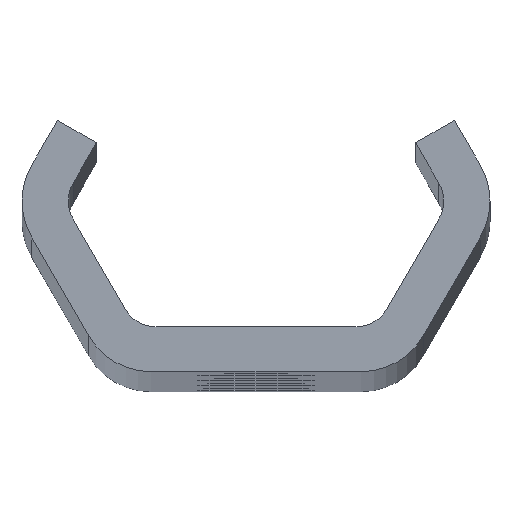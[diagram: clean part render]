
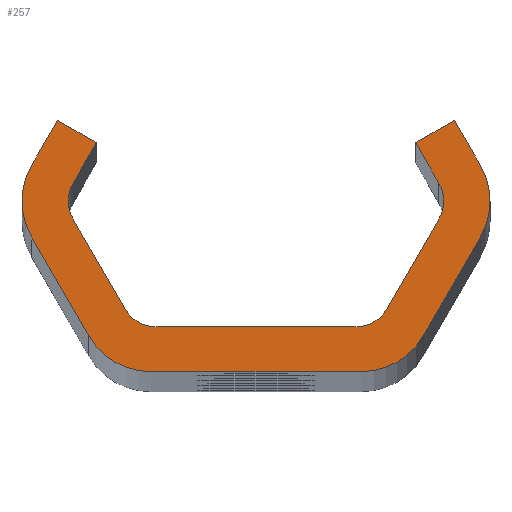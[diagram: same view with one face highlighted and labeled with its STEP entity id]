
A CAD part, top view. The second image highlights one B-rep face of the part: STEP entity #257.
In plain terms, the highlighted planar face has unit normal (0, 0, 1).
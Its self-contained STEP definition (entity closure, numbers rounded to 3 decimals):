
#257=ADVANCED_FACE('NONE',(#653),#654,.F.);
#653=FACE_OUTER_BOUND('',#1855,.T.);
#654=PLANE('',#1856);
#1855=EDGE_LOOP('',(#3693,#3694,#3695,#3696,#3697,#3698,#3699,#3700,#3701,#3702,#3703,#3704,#3705,#3706,#3707,#3708,#3709,#3710,#3711,#3712,#3713,#3714,#3715,#3716));
#1856=AXIS2_PLACEMENT_3D('',#3717,#3718,#3719);
#3693=ORIENTED_EDGE('',*,*,#4909,.T.);
#3694=ORIENTED_EDGE('',*,*,#4926,.T.);
#3695=ORIENTED_EDGE('',*,*,#4911,.T.);
#3696=ORIENTED_EDGE('',*,*,#4927,.T.);
#3697=ORIENTED_EDGE('',*,*,#4920,.F.);
#3698=ORIENTED_EDGE('',*,*,#4928,.T.);
#3699=ORIENTED_EDGE('',*,*,#4686,.T.);
#3700=ORIENTED_EDGE('',*,*,#4923,.F.);
#3701=ORIENTED_EDGE('',*,*,#4798,.F.);
#3702=ORIENTED_EDGE('',*,*,#4802,.F.);
#3703=ORIENTED_EDGE('',*,*,#4740,.T.);
#3704=ORIENTED_EDGE('',*,*,#4929,.T.);
#3705=ORIENTED_EDGE('',*,*,#4806,.F.);
#3706=ORIENTED_EDGE('',*,*,#4930,.T.);
#3707=ORIENTED_EDGE('',*,*,#4811,.F.);
#3708=ORIENTED_EDGE('',*,*,#4931,.T.);
#3709=ORIENTED_EDGE('',*,*,#4892,.T.);
#3710=ORIENTED_EDGE('',*,*,#4932,.T.);
#3711=ORIENTED_EDGE('',*,*,#4681,.T.);
#3712=ORIENTED_EDGE('',*,*,#4895,.T.);
#3713=ORIENTED_EDGE('',*,*,#4901,.T.);
#3714=ORIENTED_EDGE('',*,*,#4905,.T.);
#3715=ORIENTED_EDGE('',*,*,#4933,.T.);
#3716=ORIENTED_EDGE('',*,*,#4743,.T.);
#3717=CARTESIAN_POINT('',(0.0,0.0,640.0));
#3718=DIRECTION('',(0.0,0.0,-1.0));
#3719=DIRECTION('',(0.0,-1.0,0.0));
#4681=EDGE_CURVE('NONE',#5244,#5248,#5250,.T.);
#4686=EDGE_CURVE('NONE',#5253,#5257,#5259,.T.);
#4740=EDGE_CURVE('NONE',#5356,#5354,#5357,.T.);
#4743=EDGE_CURVE('NONE',#5360,#5361,#5362,.T.);
#4798=EDGE_CURVE('NONE',#5444,#5446,#5447,.T.);
#4802=EDGE_CURVE('NONE',#5356,#5444,#5451,.T.);
#4806=EDGE_CURVE('NONE',#5456,#5458,#5459,.T.);
#4811=EDGE_CURVE('NONE',#5465,#5467,#5468,.T.);
#4892=EDGE_CURVE('NONE',#5622,#5620,#5623,.T.);
#4895=EDGE_CURVE('NONE',#5248,#5626,#5627,.T.);
#4901=EDGE_CURVE('NONE',#5626,#5634,#5636,.T.);
#4905=EDGE_CURVE('NONE',#5634,#5640,#5642,.T.);
#4909=EDGE_CURVE('NONE',#5361,#5646,#5648,.T.);
#4911=EDGE_CURVE('NONE',#5650,#5651,#5652,.T.);
#4920=EDGE_CURVE('NONE',#5664,#5666,#5667,.T.);
#4923=EDGE_CURVE('NONE',#5446,#5257,#5670,.T.);
#4926=EDGE_CURVE('NONE',#5646,#5650,#5673,.T.);
#4927=EDGE_CURVE('NONE',#5651,#5666,#5674,.T.);
#4928=EDGE_CURVE('NONE',#5664,#5253,#5675,.T.);
#4929=EDGE_CURVE('NONE',#5354,#5458,#5676,.T.);
#4930=EDGE_CURVE('NONE',#5456,#5467,#5677,.T.);
#4931=EDGE_CURVE('NONE',#5465,#5622,#5678,.T.);
#4932=EDGE_CURVE('NONE',#5620,#5244,#5679,.T.);
#4933=EDGE_CURVE('NONE',#5640,#5360,#5680,.T.);
#5244=VERTEX_POINT('',#6081);
#5248=VERTEX_POINT('NONE',#6086);
#5250=CIRCLE('',#6089,2.0);
#5253=VERTEX_POINT('',#6092);
#5257=VERTEX_POINT('NONE',#6097);
#5259=CIRCLE('',#6100,4.0);
#5354=VERTEX_POINT('NONE',#6899);
#5356=VERTEX_POINT('NONE',#6902);
#5357=CIRCLE('',#6903,2.0);
#5360=VERTEX_POINT('NONE',#6907);
#5361=VERTEX_POINT('NONE',#6908);
#5362=CIRCLE('',#6909,4.0);
#5444=VERTEX_POINT('NONE',#7006);
#5446=VERTEX_POINT('NONE',#7009);
#5447=LINE('',#7010,#7011);
#5451=LINE('',#7017,#7018);
#5456=VERTEX_POINT('NONE',#7024);
#5458=VERTEX_POINT('NONE',#7027);
#5459=LINE('',#7028,#7029);
#5465=VERTEX_POINT('NONE',#7037);
#5467=VERTEX_POINT('NONE',#7040);
#5468=LINE('',#7041,#7042);
#5620=VERTEX_POINT('NONE',#7596);
#5622=VERTEX_POINT('NONE',#7599);
#5623=LINE('',#7600,#7601);
#5626=VERTEX_POINT('NONE',#7605);
#5627=LINE('',#7606,#7607);
#5634=VERTEX_POINT('NONE',#7617);
#5636=LINE('',#7620,#7621);
#5640=VERTEX_POINT('NONE',#7626);
#5642=LINE('',#7629,#7630);
#5646=VERTEX_POINT('NONE',#7635);
#5648=LINE('',#7638,#7639);
#5650=VERTEX_POINT('NONE',#7641);
#5651=VERTEX_POINT('NONE',#7642);
#5652=LINE('',#7643,#7644);
#5664=VERTEX_POINT('NONE',#7660);
#5666=VERTEX_POINT('NONE',#7663);
#5667=LINE('',#7664,#7665);
#5670=LINE('',#7669,#7670);
#5673=CIRCLE('',#7674,4.0);
#5674=CIRCLE('',#7675,4.0);
#5675=CIRCLE('',#7676,4.0);
#5676=CIRCLE('',#7677,2.0);
#5677=CIRCLE('',#7678,2.0);
#5678=CIRCLE('',#7679,2.0);
#5679=CIRCLE('',#7680,2.0);
#5680=CIRCLE('',#7681,4.0);
#6081=CARTESIAN_POINT('',(-10.455,0.,640.0));
#6086=CARTESIAN_POINT('',(-10.187,1.,640.0));
#6089=AXIS2_PLACEMENT_3D('',#8985,#8986,#8987);
#6092=CARTESIAN_POINT('',(13.032,0.,640.0));
#6097=CARTESIAN_POINT('',(12.496,2.,640.0));
#6100=AXIS2_PLACEMENT_3D('',#8993,#8994,#8995);
#6899=CARTESIAN_POINT('',(10.455,0.,640.0));
#6902=CARTESIAN_POINT('',(10.187,1.,640.0));
#6903=AXIS2_PLACEMENT_3D('',#9032,#9033,#9034);
#6907=CARTESIAN_POINT('',(-13.032,0.,640.0));
#6908=CARTESIAN_POINT('',(-12.496,-2.,640.0));
#6909=AXIS2_PLACEMENT_3D('',#9036,#9037,#9038);
#7006=CARTESIAN_POINT('',(8.888,3.25,640.0));
#7009=CARTESIAN_POINT('',(11.053,4.5,640.0));
#7010=CARTESIAN_POINT('',(8.888,3.25,640.0));
#7011=VECTOR('',#9130,1000.0);
#7017=CARTESIAN_POINT('',(10.764,0.,640.0));
#7018=VECTOR('',#9133,1000.0);
#7024=CARTESIAN_POINT('',(7.3,-6.,640.0));
#7027=CARTESIAN_POINT('',(10.187,-1.,640.0));
#7028=CARTESIAN_POINT('',(6.723,-7.0,640.0));
#7029=VECTOR('',#9136,1000.0);
#7037=CARTESIAN_POINT('',(-5.568,-7.0,640.0));
#7040=CARTESIAN_POINT('',(5.568,-7.0,640.0));
#7041=CARTESIAN_POINT('',(-6.723,-7.0,640.0));
#7042=VECTOR('',#9140,1000.0);
#7596=CARTESIAN_POINT('',(-10.187,-1.,640.0));
#7599=CARTESIAN_POINT('',(-7.3,-6.,640.0));
#7600=CARTESIAN_POINT('',(-6.723,-7.0,640.0));
#7601=VECTOR('',#9216,1000.0);
#7605=CARTESIAN_POINT('',(-8.888,3.25,640.0));
#7606=CARTESIAN_POINT('',(-10.764,0.0,640.0));
#7607=VECTOR('',#9218,1000.0);
#7617=CARTESIAN_POINT('',(-11.053,4.5,640.0));
#7620=CARTESIAN_POINT('',(-8.888,3.25,640.0));
#7621=VECTOR('',#9223,1000.0);
#7626=CARTESIAN_POINT('',(-12.496,2.0,640.0));
#7629=CARTESIAN_POINT('',(-11.053,4.5,640.0));
#7630=VECTOR('',#9226,1000.0);
#7635=CARTESIAN_POINT('',(-9.321,-7.5,640.0));
#7638=CARTESIAN_POINT('',(-13.651,0.0,640.0));
#7639=VECTOR('',#9229,1000.0);
#7641=CARTESIAN_POINT('',(-5.857,-9.5,640.0));
#7642=CARTESIAN_POINT('',(5.857,-9.5,640.0));
#7643=CARTESIAN_POINT('',(-8.166,-9.5,640.0));
#7644=VECTOR('',#9230,1000.0);
#7660=CARTESIAN_POINT('',(12.496,-2.,640.0));
#7663=CARTESIAN_POINT('',(9.321,-7.5,640.0));
#7664=CARTESIAN_POINT('',(13.651,0.,640.0));
#7665=VECTOR('',#9242,1000.0);
#7669=CARTESIAN_POINT('',(11.053,4.5,640.0));
#7670=VECTOR('',#9244,1000.0);
#7674=AXIS2_PLACEMENT_3D('',#9246,#9247,#9248);
#7675=AXIS2_PLACEMENT_3D('',#9249,#9250,#9251);
#7676=AXIS2_PLACEMENT_3D('',#9252,#9253,#9254);
#7677=AXIS2_PLACEMENT_3D('',#9255,#9256,#9257);
#7678=AXIS2_PLACEMENT_3D('',#9258,#9259,#9260);
#7679=AXIS2_PLACEMENT_3D('',#9261,#9262,#9263);
#7680=AXIS2_PLACEMENT_3D('',#9264,#9265,#9266);
#7681=AXIS2_PLACEMENT_3D('',#9267,#9268,#9269);
#8985=CARTESIAN_POINT('',(-8.455,0.,640.0));
#8986=DIRECTION('',(0.0,0.0,-1.0));
#8987=DIRECTION('',(-1.0,0.0,0.0));
#8993=CARTESIAN_POINT('',(9.032,0.,640.0));
#8994=DIRECTION('',(0.0,0.0,1.0));
#8995=DIRECTION('',(-1.0,0.0,0.0));
#9032=CARTESIAN_POINT('',(8.455,0.,640.0));
#9033=DIRECTION('',(0.0,0.0,-1.0));
#9034=DIRECTION('',(-1.0,0.0,0.0));
#9036=CARTESIAN_POINT('',(-9.032,0.,640.0));
#9037=DIRECTION('',(0.0,0.0,1.0));
#9038=DIRECTION('',(-1.0,0.0,0.0));
#9130=DIRECTION('',(0.866,0.5,0.0));
#9133=DIRECTION('',(-0.5,0.866,0.0));
#9136=DIRECTION('',(0.5,0.866,0.0));
#9140=DIRECTION('',(1.0,0.,0.0));
#9216=DIRECTION('',(-0.5,0.866,0.0));
#9218=DIRECTION('',(0.5,0.866,0.0));
#9223=DIRECTION('',(-0.866,0.5,0.0));
#9226=DIRECTION('',(-0.5,-0.866,0.0));
#9229=DIRECTION('',(0.5,-0.866,0.0));
#9230=DIRECTION('',(1.0,0.,0.0));
#9242=DIRECTION('',(-0.5,-0.866,0.0));
#9244=DIRECTION('',(0.5,-0.866,0.0));
#9246=CARTESIAN_POINT('',(-5.857,-5.5,640.0));
#9247=DIRECTION('',(0.0,0.0,1.0));
#9248=DIRECTION('',(-1.0,0.0,0.0));
#9249=CARTESIAN_POINT('',(5.857,-5.5,640.0));
#9250=DIRECTION('',(0.0,0.0,1.0));
#9251=DIRECTION('',(-1.0,0.0,0.0));
#9252=CARTESIAN_POINT('',(9.032,0.,640.0));
#9253=DIRECTION('',(0.0,0.0,1.0));
#9254=DIRECTION('',(-1.0,0.0,0.0));
#9255=CARTESIAN_POINT('',(8.455,0.,640.0));
#9256=DIRECTION('',(0.0,0.0,-1.0));
#9257=DIRECTION('',(-1.0,0.0,0.0));
#9258=CARTESIAN_POINT('',(5.568,-5.0,640.0));
#9259=DIRECTION('',(0.0,0.0,-1.0));
#9260=DIRECTION('',(-1.0,0.0,0.0));
#9261=CARTESIAN_POINT('',(-5.568,-5.0,640.0));
#9262=DIRECTION('',(0.0,0.0,-1.0));
#9263=DIRECTION('',(-1.0,0.0,0.0));
#9264=CARTESIAN_POINT('',(-8.455,0.,640.0));
#9265=DIRECTION('',(0.0,0.0,-1.0));
#9266=DIRECTION('',(-1.0,0.0,0.0));
#9267=CARTESIAN_POINT('',(-9.032,0.,640.0));
#9268=DIRECTION('',(0.0,0.0,1.0));
#9269=DIRECTION('',(-1.0,0.,0.0));
